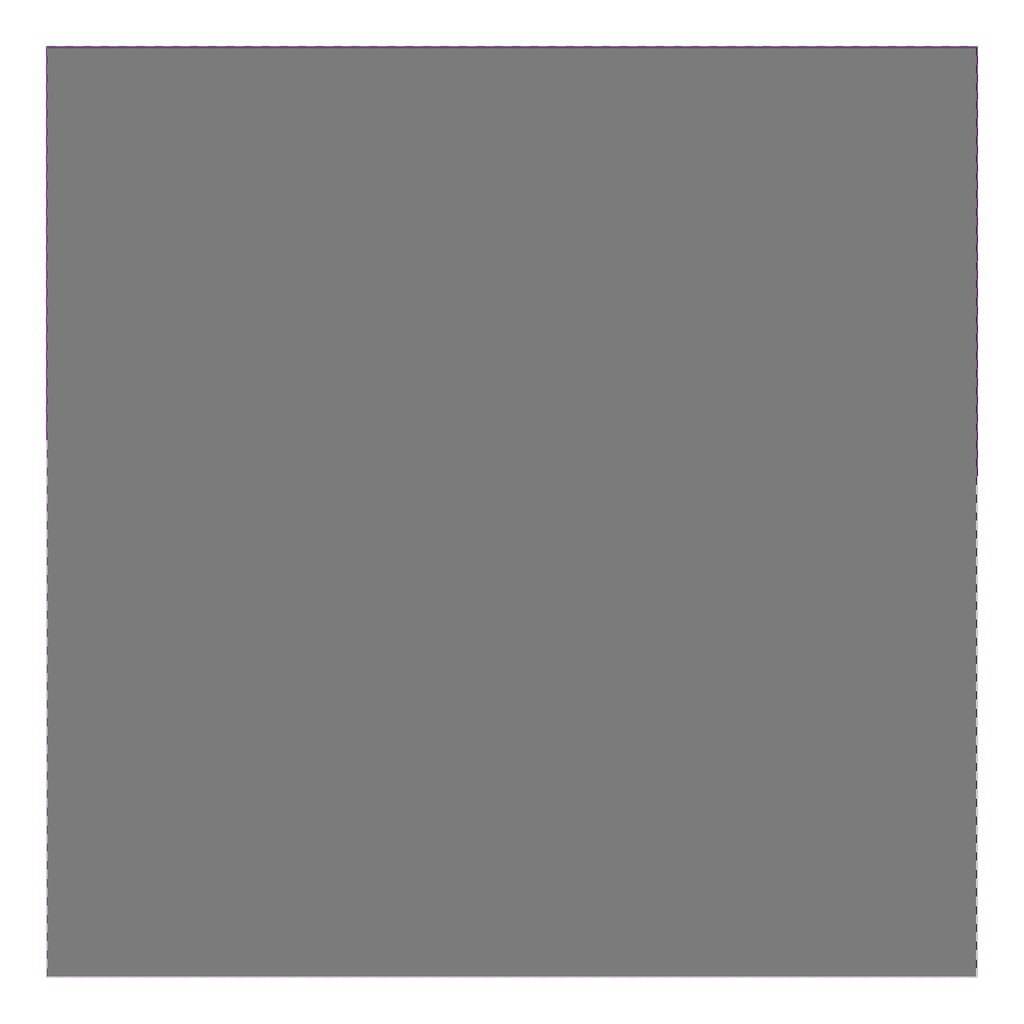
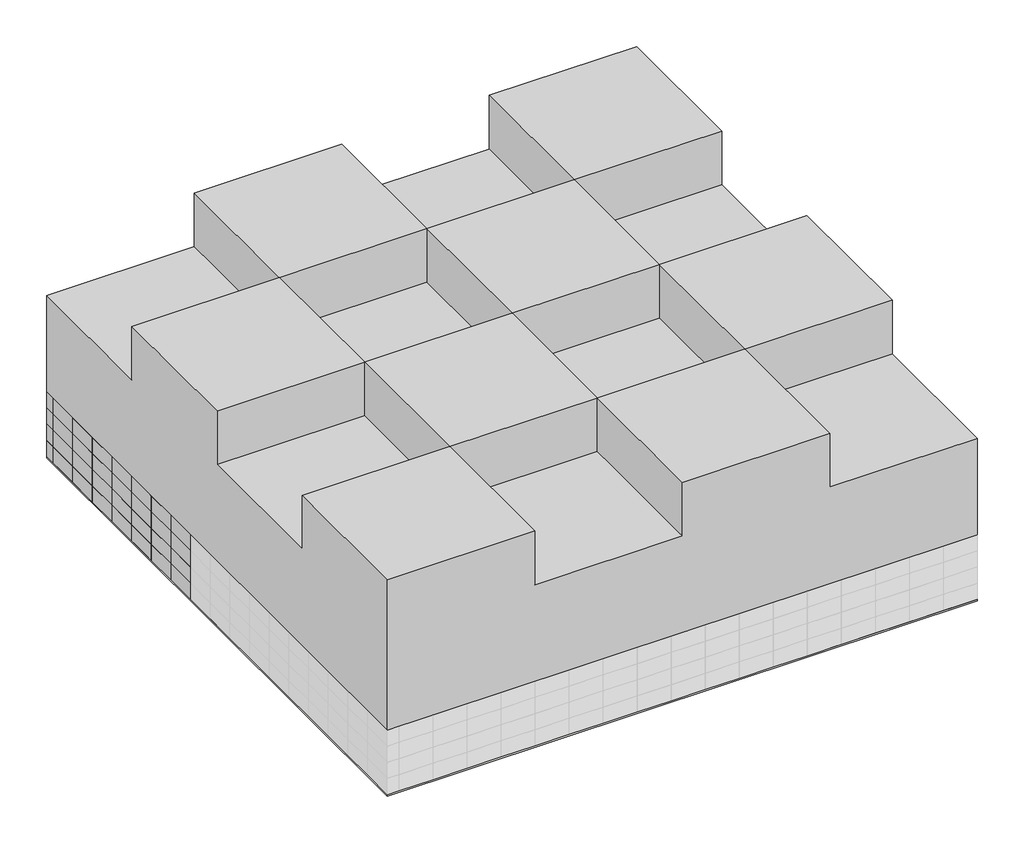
# One storey, part 2 of 2: 136 plates, 2 slabs, 1 proxy.
"""IFC4 building model written with IfcOpenShell, lengths in millimetres."""

from ifc_helpers import new_model, si_unit, frame, origin, place, context, project, spatial, polyline, outline, extrude, faceted_brep, transform, mapped, element, save
from components import plate_b491c4e8, plate_da1865bf

model = new_model("IFC4")

# Units and contexts
model_context = context("Model", 3, world=origin())
ifc_project = project(units=[si_unit("LENGTHUNIT", "METRE", prefix="MILLI")], contexts=[model_context])

# Site, building, storey
site = spatial("IfcSite", under=ifc_project)
building = spatial("IfcBuilding", under=site)
storey = spatial("IfcBuildingStorey", under=building, Name="标高 1", Elevation=0.0)

# Proxy
placement = place(None, origin())
element("IfcBuildingElementProxy", 1, Name="建筑形体 : 建筑形体", ObjectType="建筑形体 : 建筑形体", at=placement, inside=storey, context=model_context, shape_type="Brep", body=[
    faceted_brep([(30694.7947586, -27248.6313563, 0.0), (30694.7947586, 24751.3686437, 0.0), (30694.7947586, 24751.3686437, 20000.0), (30694.7947586, 11751.3686437, 20000.0), (30694.7947586, 11751.3686437, 15000.0), (30694.7947586, -1248.6313563, 15000.0), (30694.7947586, -1248.6313563, 20000.0), (30694.7947586, -14248.6313563, 20000.0), (30694.7947586, -14248.6313563, 15000.0), (30694.7947586, -27248.6313563, 15000.0), (-21305.2052414, 24751.3686437, 0.0), (-21305.2052414, 24751.3686437, 15000.0), (-8305.2052414, 24751.3686437, 15000.0), (-8305.2052414, 24751.3686437, 20000.0), (4694.7947586, 24751.3686437, 20000.0), (4694.7947586, 24751.3686437, 15000.0), (17694.7947586, 24751.3686437, 15000.0), (17694.7947586, 24751.3686437, 20000.0), (-21305.2052414, -27248.6313563, 0.0), (-21305.2052414, -27248.6313563, 20000.0), (-21305.2052414, -14248.6313563, 20000.0), (-21305.2052414, -14248.6313563, 15000.0), (-21305.2052414, -1248.6313563, 15000.0), (-21305.2052414, -1248.6313563, 20000.0), (-21305.2052414, 11751.3686437, 20000.0), (-21305.2052414, 11751.3686437, 15000.0), (17694.7947586, -27248.6313563, 15000.0), (17694.7947586, -27248.6313563, 20000.0), (4694.7947586, -27248.6313563, 20000.0), (4694.7947586, -27248.6313563, 15000.0), (-8305.2052414, -27248.6313563, 15000.0), (-8305.2052414, -27248.6313563, 20000.0), (17694.7947586, 11751.3686437, 20000.0), (-8305.2052414, -14248.6313563, 20000.0), (-8305.2052414, 11751.3686437, 20000.0), (-8305.2052414, -1248.6313563, 20000.0), (4694.7947586, 11751.3686437, 20000.0), (4694.7947586, -1248.6313563, 20000.0), (17694.7947586, -1248.6313563, 20000.0), (4694.7947586, -14248.6313563, 20000.0), (17694.7947586, -14248.6313563, 20000.0), (-8305.2052414, 11751.3686437, 15000.0), (4694.7947586, 11751.3686437, 15000.0), (17694.7947586, 11751.3686437, 15000.0), (4694.7947586, 11751.3686437, 15000.0), (-8305.2052414, 11751.3686437, 15000.0), (-8305.2052414, -1248.6313563, 15000.0), (4694.7947586, -1248.6313563, 15000.0), (17694.7947586, 11751.3686437, 15000.0), (17694.7947586, -1248.6313563, 15000.0), (-8305.2052414, -1248.6313563, 15000.0), (-8305.2052414, -14248.6313563, 15000.0), (17694.7947586, -1248.6313563, 15000.0), (4694.7947586, -1248.6313563, 15000.0), (4694.7947586, -14248.6313563, 15000.0), (17694.7947586, -14248.6313563, 15000.0), (4694.7947586, -14248.6313563, 15000.0), (-8305.2052414, -14248.6313563, 15000.0), (17694.7947586, -14248.6313563, 15000.0)], [[[0, 1, 2, 3, 4, 5, 6, 7, 8, 9]], [[2, 1, 10, 11, 12, 13, 14, 15, 16, 17]], [[10, 18, 19, 20, 21, 22, 23, 24, 25, 11]], [[19, 18, 0, 9, 26, 27, 28, 29, 30, 31]], [[2, 17, 32, 3]], [[20, 19, 31, 33]], [[34, 24, 23, 35]], [[13, 34, 36, 14]], [[32, 36, 37, 38]], [[37, 35, 33, 39]], [[6, 38, 40, 7]], [[40, 39, 28, 27]], [[1, 0, 18, 10]], [[34, 41, 25, 24]], [[41, 34, 13, 12]], [[25, 41, 12, 11]], [[36, 42, 15, 14]], [[42, 36, 32, 43]], [[43, 32, 17, 16]], [[15, 42, 43, 16]], [[44, 36, 34, 45]], [[45, 34, 35, 46]], [[46, 35, 37, 47]], [[36, 44, 47, 37]], [[44, 45, 46, 47]], [[32, 48, 4, 3]], [[48, 32, 38, 49]], [[49, 38, 6, 5]], [[4, 48, 49, 5]], [[50, 35, 23, 22]], [[33, 51, 21, 20]], [[35, 50, 51, 33]], [[50, 22, 21, 51]], [[52, 38, 37, 53]], [[53, 37, 39, 54]], [[54, 39, 40, 55]], [[38, 52, 55, 40]], [[52, 53, 54, 55]], [[56, 39, 33, 57]], [[57, 33, 31, 30]], [[39, 56, 29, 28]], [[56, 57, 30, 29]], [[40, 58, 8, 7]], [[58, 40, 27, 26]], [[8, 58, 26, 9]]]),
])

# Plates
plate_shape = plate_b491c4e8(model_context)
element("IfcPlate", 2, ObjectType="系统嵌板 : 玻璃", at=placement, inside=storey, context=model_context, shape_type="MappedRepresentation", body=[
    mapped(plate_shape, transform((30694.7947586, 23251.3686437, 0.0), x_axis=(0.0, -1.0, 0.0), y_axis=(1.0, 0.0, 0.0), z_axis=(0.0, 0.0, 1.0))),
])
element("IfcPlate", 3, ObjectType="系统嵌板 : 玻璃", at=placement, inside=storey, context=model_context, shape_type="MappedRepresentation", body=[
    mapped(plate_shape, transform((-19805.2052414, 24751.3686437, 0.0), x_axis=(1.0, 0.0, 0.0), y_axis=(0.0, 1.0, 0.0), z_axis=(0.0, 0.0, 1.0))),
])
element("IfcPlate", 4, ObjectType="系统嵌板 : 玻璃", at=placement, inside=storey, context=model_context, shape_type="MappedRepresentation", body=[
    mapped(plate_shape, transform((30694.7947586, 20251.3686437, 0.0), x_axis=(0.0, -1.0, 0.0), y_axis=(1.0, 0.0, 0.0), z_axis=(0.0, 0.0, 1.0))),
])
element("IfcPlate", 5, ObjectType="系统嵌板 : 玻璃", at=placement, inside=storey, context=model_context, shape_type="MappedRepresentation", body=[
    mapped(plate_shape, transform((30694.7947586, 17251.3686437, 0.0), x_axis=(0.0, -1.0, 0.0), y_axis=(1.0, 0.0, 0.0), z_axis=(0.0, 0.0, 1.0))),
])
element("IfcPlate", 6, ObjectType="系统嵌板 : 玻璃", at=placement, inside=storey, context=model_context, shape_type="MappedRepresentation", body=[
    mapped(plate_shape, transform((30694.7947586, 14251.3686437, 0.0), x_axis=(0.0, -1.0, 0.0), y_axis=(1.0, 0.0, 0.0), z_axis=(0.0, 0.0, 1.0))),
])
element("IfcPlate", 7, ObjectType="系统嵌板 : 玻璃", at=placement, inside=storey, context=model_context, shape_type="MappedRepresentation", body=[
    mapped(plate_shape, transform((30694.7947586, 11251.3686437, 0.0), x_axis=(0.0, -1.0, 0.0), y_axis=(1.0, 0.0, 0.0), z_axis=(0.0, 0.0, 1.0))),
])
element("IfcPlate", 8, ObjectType="系统嵌板 : 玻璃", at=placement, inside=storey, context=model_context, shape_type="MappedRepresentation", body=[
    mapped(plate_shape, transform((30694.7947586, 8251.3686437, 0.0), x_axis=(0.0, -1.0, 0.0), y_axis=(1.0, 0.0, 0.0), z_axis=(0.0, 0.0, 1.0))),
])
element("IfcPlate", 9, ObjectType="系统嵌板 : 玻璃", at=placement, inside=storey, context=model_context, shape_type="MappedRepresentation", body=[
    mapped(plate_shape, transform((30694.7947586, 5251.3686437, 0.0), x_axis=(0.0, -1.0, 0.0), y_axis=(1.0, 0.0, 0.0), z_axis=(0.0, 0.0, 1.0))),
])
element("IfcPlate", 10, ObjectType="系统嵌板 : 玻璃", at=placement, inside=storey, context=model_context, shape_type="MappedRepresentation", body=[
    mapped(plate_shape, transform((30694.7947586, 2251.3686437, 0.0), x_axis=(0.0, -1.0, 0.0), y_axis=(1.0, 0.0, 0.0), z_axis=(0.0, 0.0, 1.0))),
])
element("IfcPlate", 11, ObjectType="系统嵌板 : 玻璃", at=placement, inside=storey, context=model_context, shape_type="MappedRepresentation", body=[
    mapped(plate_shape, transform((30694.7947586, 23251.3686437, 1500.0), x_axis=(0.0, -1.0, 0.0), y_axis=(1.0, 0.0, 0.0), z_axis=(0.0, 0.0, 1.0))),
])
element("IfcPlate", 12, ObjectType="系统嵌板 : 玻璃", at=placement, inside=storey, context=model_context, shape_type="MappedRepresentation", body=[
    mapped(plate_shape, transform((30694.7947586, 20251.3686437, 1500.0), x_axis=(0.0, -1.0, 0.0), y_axis=(1.0, 0.0, 0.0), z_axis=(0.0, 0.0, 1.0))),
])
element("IfcPlate", 13, ObjectType="系统嵌板 : 玻璃", at=placement, inside=storey, context=model_context, shape_type="MappedRepresentation", body=[
    mapped(plate_shape, transform((30694.7947586, 17251.3686437, 1500.0), x_axis=(0.0, -1.0, 0.0), y_axis=(1.0, 0.0, 0.0), z_axis=(0.0, 0.0, 1.0))),
])
element("IfcPlate", 14, ObjectType="系统嵌板 : 玻璃", at=placement, inside=storey, context=model_context, shape_type="MappedRepresentation", body=[
    mapped(plate_shape, transform((30694.7947586, 14251.3686437, 1500.0), x_axis=(0.0, -1.0, 0.0), y_axis=(1.0, 0.0, 0.0), z_axis=(0.0, 0.0, 1.0))),
])
element("IfcPlate", 15, ObjectType="系统嵌板 : 玻璃", at=placement, inside=storey, context=model_context, shape_type="MappedRepresentation", body=[
    mapped(plate_shape, transform((30694.7947586, 11251.3686437, 1500.0), x_axis=(0.0, -1.0, 0.0), y_axis=(1.0, 0.0, 0.0), z_axis=(0.0, 0.0, 1.0))),
])
element("IfcPlate", 16, ObjectType="系统嵌板 : 玻璃", at=placement, inside=storey, context=model_context, shape_type="MappedRepresentation", body=[
    mapped(plate_shape, transform((30694.7947586, 8251.3686437, 1500.0), x_axis=(0.0, -1.0, 0.0), y_axis=(1.0, 0.0, 0.0), z_axis=(0.0, 0.0, 1.0))),
])
element("IfcPlate", 17, ObjectType="系统嵌板 : 玻璃", at=placement, inside=storey, context=model_context, shape_type="MappedRepresentation", body=[
    mapped(plate_shape, transform((30694.7947586, 5251.3686437, 1500.0), x_axis=(0.0, -1.0, 0.0), y_axis=(1.0, 0.0, 0.0), z_axis=(0.0, 0.0, 1.0))),
])
element("IfcPlate", 18, ObjectType="系统嵌板 : 玻璃", at=placement, inside=storey, context=model_context, shape_type="MappedRepresentation", body=[
    mapped(plate_shape, transform((30694.7947586, 2251.3686437, 1500.0), x_axis=(0.0, -1.0, 0.0), y_axis=(1.0, 0.0, 0.0), z_axis=(0.0, 0.0, 1.0))),
])
element("IfcPlate", 19, ObjectType="系统嵌板 : 玻璃", at=placement, inside=storey, context=model_context, shape_type="MappedRepresentation", body=[
    mapped(plate_shape, transform((30694.7947586, 23251.3686437, 3000.0), x_axis=(0.0, -1.0, 0.0), y_axis=(1.0, 0.0, 0.0), z_axis=(0.0, 0.0, 1.0))),
])
element("IfcPlate", 20, ObjectType="系统嵌板 : 玻璃", at=placement, inside=storey, context=model_context, shape_type="MappedRepresentation", body=[
    mapped(plate_shape, transform((30694.7947586, 20251.3686437, 3000.0), x_axis=(0.0, -1.0, 0.0), y_axis=(1.0, 0.0, 0.0), z_axis=(0.0, 0.0, 1.0))),
])
element("IfcPlate", 21, ObjectType="系统嵌板 : 玻璃", at=placement, inside=storey, context=model_context, shape_type="MappedRepresentation", body=[
    mapped(plate_shape, transform((30694.7947586, 17251.3686437, 3000.0), x_axis=(0.0, -1.0, 0.0), y_axis=(1.0, 0.0, 0.0), z_axis=(0.0, 0.0, 1.0))),
])
element("IfcPlate", 22, ObjectType="系统嵌板 : 玻璃", at=placement, inside=storey, context=model_context, shape_type="MappedRepresentation", body=[
    mapped(plate_shape, transform((30694.7947586, 14251.3686437, 3000.0), x_axis=(0.0, -1.0, 0.0), y_axis=(1.0, 0.0, 0.0), z_axis=(0.0, 0.0, 1.0))),
])
element("IfcPlate", 23, ObjectType="系统嵌板 : 玻璃", at=placement, inside=storey, context=model_context, shape_type="MappedRepresentation", body=[
    mapped(plate_shape, transform((30694.7947586, 11251.3686437, 3000.0), x_axis=(0.0, -1.0, 0.0), y_axis=(1.0, 0.0, 0.0), z_axis=(0.0, 0.0, 1.0))),
])
element("IfcPlate", 24, ObjectType="系统嵌板 : 玻璃", at=placement, inside=storey, context=model_context, shape_type="MappedRepresentation", body=[
    mapped(plate_shape, transform((30694.7947586, 8251.3686437, 3000.0), x_axis=(0.0, -1.0, 0.0), y_axis=(1.0, 0.0, 0.0), z_axis=(0.0, 0.0, 1.0))),
])
element("IfcPlate", 25, ObjectType="系统嵌板 : 玻璃", at=placement, inside=storey, context=model_context, shape_type="MappedRepresentation", body=[
    mapped(plate_shape, transform((30694.7947586, 5251.3686437, 3000.0), x_axis=(0.0, -1.0, 0.0), y_axis=(1.0, 0.0, 0.0), z_axis=(0.0, 0.0, 1.0))),
])
element("IfcPlate", 26, ObjectType="系统嵌板 : 玻璃", at=placement, inside=storey, context=model_context, shape_type="MappedRepresentation", body=[
    mapped(plate_shape, transform((30694.7947586, 2251.3686437, 3000.0), x_axis=(0.0, -1.0, 0.0), y_axis=(1.0, 0.0, 0.0), z_axis=(0.0, 0.0, 1.0))),
])
element("IfcPlate", 27, ObjectType="系统嵌板 : 玻璃", at=placement, inside=storey, context=model_context, shape_type="MappedRepresentation", body=[
    mapped(plate_shape, transform((30694.7947586, 23251.3686437, 4500.0), x_axis=(0.0, -1.0, 0.0), y_axis=(1.0, 0.0, 0.0), z_axis=(0.0, 0.0, 1.0))),
])
element("IfcPlate", 28, ObjectType="系统嵌板 : 玻璃", at=placement, inside=storey, context=model_context, shape_type="MappedRepresentation", body=[
    mapped(plate_shape, transform((30694.7947586, 20251.3686437, 4500.0), x_axis=(0.0, -1.0, 0.0), y_axis=(1.0, 0.0, 0.0), z_axis=(0.0, 0.0, 1.0))),
])
element("IfcPlate", 29, ObjectType="系统嵌板 : 玻璃", at=placement, inside=storey, context=model_context, shape_type="MappedRepresentation", body=[
    mapped(plate_shape, transform((30694.7947586, 17251.3686437, 4500.0), x_axis=(0.0, -1.0, 0.0), y_axis=(1.0, 0.0, 0.0), z_axis=(0.0, 0.0, 1.0))),
])
element("IfcPlate", 30, ObjectType="系统嵌板 : 玻璃", at=placement, inside=storey, context=model_context, shape_type="MappedRepresentation", body=[
    mapped(plate_shape, transform((30694.7947586, 14251.3686437, 4500.0), x_axis=(0.0, -1.0, 0.0), y_axis=(1.0, 0.0, 0.0), z_axis=(0.0, 0.0, 1.0))),
])
element("IfcPlate", 31, ObjectType="系统嵌板 : 玻璃", at=placement, inside=storey, context=model_context, shape_type="MappedRepresentation", body=[
    mapped(plate_shape, transform((30694.7947586, 11251.3686437, 4500.0), x_axis=(0.0, -1.0, 0.0), y_axis=(1.0, 0.0, 0.0), z_axis=(0.0, 0.0, 1.0))),
])
element("IfcPlate", 32, ObjectType="系统嵌板 : 玻璃", at=placement, inside=storey, context=model_context, shape_type="MappedRepresentation", body=[
    mapped(plate_shape, transform((30694.7947586, 8251.3686437, 4500.0), x_axis=(0.0, -1.0, 0.0), y_axis=(1.0, 0.0, 0.0), z_axis=(0.0, 0.0, 1.0))),
])
element("IfcPlate", 33, ObjectType="系统嵌板 : 玻璃", at=placement, inside=storey, context=model_context, shape_type="MappedRepresentation", body=[
    mapped(plate_shape, transform((30694.7947586, 5251.3686437, 4500.0), x_axis=(0.0, -1.0, 0.0), y_axis=(1.0, 0.0, 0.0), z_axis=(0.0, 0.0, 1.0))),
])
element("IfcPlate", 34, ObjectType="系统嵌板 : 玻璃", at=placement, inside=storey, context=model_context, shape_type="MappedRepresentation", body=[
    mapped(plate_shape, transform((30694.7947586, 2251.3686437, 4500.0), x_axis=(0.0, -1.0, 0.0), y_axis=(1.0, 0.0, 0.0), z_axis=(0.0, 0.0, 1.0))),
])
element("IfcPlate", 35, ObjectType="系统嵌板 : 玻璃", at=placement, inside=storey, context=model_context, shape_type="MappedRepresentation", body=[
    mapped(plate_shape, transform((-16805.2052414, 24751.3686437, 0.0), x_axis=(1.0, 0.0, 0.0), y_axis=(0.0, 1.0, 0.0), z_axis=(0.0, 0.0, 1.0))),
])
element("IfcPlate", 36, ObjectType="系统嵌板 : 玻璃", at=placement, inside=storey, context=model_context, shape_type="MappedRepresentation", body=[
    mapped(plate_shape, transform((-13805.2052414, 24751.3686437, 0.0), x_axis=(1.0, 0.0, 0.0), y_axis=(0.0, 1.0, 0.0), z_axis=(0.0, 0.0, 1.0))),
])
element("IfcPlate", 37, ObjectType="系统嵌板 : 玻璃", at=placement, inside=storey, context=model_context, shape_type="MappedRepresentation", body=[
    mapped(plate_shape, transform((-10805.2052414, 24751.3686437, 0.0), x_axis=(1.0, 0.0, 0.0), y_axis=(0.0, 1.0, 0.0), z_axis=(0.0, 0.0, 1.0))),
])
element("IfcPlate", 38, ObjectType="系统嵌板 : 玻璃", at=placement, inside=storey, context=model_context, shape_type="MappedRepresentation", body=[
    mapped(plate_shape, transform((-7805.2052414, 24751.3686437, 0.0), x_axis=(1.0, 0.0, 0.0), y_axis=(0.0, 1.0, 0.0), z_axis=(0.0, 0.0, 1.0))),
])
element("IfcPlate", 39, ObjectType="系统嵌板 : 玻璃", at=placement, inside=storey, context=model_context, shape_type="MappedRepresentation", body=[
    mapped(plate_shape, transform((-4805.2052414, 24751.3686437, 0.0), x_axis=(1.0, 0.0, 0.0), y_axis=(0.0, 1.0, 0.0), z_axis=(0.0, 0.0, 1.0))),
])
element("IfcPlate", 40, ObjectType="系统嵌板 : 玻璃", at=placement, inside=storey, context=model_context, shape_type="MappedRepresentation", body=[
    mapped(plate_shape, transform((-1805.2052414, 24751.3686437, 0.0), x_axis=(1.0, 0.0, 0.0), y_axis=(0.0, 1.0, 0.0), z_axis=(0.0, 0.0, 1.0))),
])
element("IfcPlate", 41, ObjectType="系统嵌板 : 玻璃", at=placement, inside=storey, context=model_context, shape_type="MappedRepresentation", body=[
    mapped(plate_shape, transform((1194.7947586, 24751.3686437, 0.0), x_axis=(1.0, 0.0, 0.0), y_axis=(0.0, 1.0, 0.0), z_axis=(0.0, 0.0, 1.0))),
])
element("IfcPlate", 42, ObjectType="系统嵌板 : 玻璃", at=placement, inside=storey, context=model_context, shape_type="MappedRepresentation", body=[
    mapped(plate_shape, transform((4194.7947586, 24751.3686437, 0.0), x_axis=(1.0, 0.0, 0.0), y_axis=(0.0, 1.0, 0.0), z_axis=(0.0, 0.0, 1.0))),
])
element("IfcPlate", 43, ObjectType="系统嵌板 : 玻璃", at=placement, inside=storey, context=model_context, shape_type="MappedRepresentation", body=[
    mapped(plate_shape, transform((7194.7947586, 24751.3686437, 0.0), x_axis=(1.0, 0.0, 0.0), y_axis=(0.0, 1.0, 0.0), z_axis=(0.0, 0.0, 1.0))),
])
element("IfcPlate", 44, ObjectType="系统嵌板 : 玻璃", at=placement, inside=storey, context=model_context, shape_type="MappedRepresentation", body=[
    mapped(plate_shape, transform((10194.7947586, 24751.3686437, 0.0), x_axis=(1.0, 0.0, 0.0), y_axis=(0.0, 1.0, 0.0), z_axis=(0.0, 0.0, 1.0))),
])
element("IfcPlate", 45, ObjectType="系统嵌板 : 玻璃", at=placement, inside=storey, context=model_context, shape_type="MappedRepresentation", body=[
    mapped(plate_shape, transform((13194.7947586, 24751.3686437, 0.0), x_axis=(1.0, 0.0, 0.0), y_axis=(0.0, 1.0, 0.0), z_axis=(0.0, 0.0, 1.0))),
])
element("IfcPlate", 46, ObjectType="系统嵌板 : 玻璃", at=placement, inside=storey, context=model_context, shape_type="MappedRepresentation", body=[
    mapped(plate_shape, transform((16194.7947586, 24751.3686437, 0.0), x_axis=(1.0, 0.0, 0.0), y_axis=(0.0, 1.0, 0.0), z_axis=(0.0, 0.0, 1.0))),
])
element("IfcPlate", 47, ObjectType="系统嵌板 : 玻璃", at=placement, inside=storey, context=model_context, shape_type="MappedRepresentation", body=[
    mapped(plate_shape, transform((19194.7947586, 24751.3686437, 0.0), x_axis=(1.0, 0.0, 0.0), y_axis=(0.0, 1.0, 0.0), z_axis=(0.0, 0.0, 1.0))),
])
element("IfcPlate", 48, ObjectType="系统嵌板 : 玻璃", at=placement, inside=storey, context=model_context, shape_type="MappedRepresentation", body=[
    mapped(plate_shape, transform((22194.7947586, 24751.3686437, 0.0), x_axis=(1.0, 0.0, 0.0), y_axis=(0.0, 1.0, 0.0), z_axis=(0.0, 0.0, 1.0))),
])
element("IfcPlate", 49, ObjectType="系统嵌板 : 玻璃", at=placement, inside=storey, context=model_context, shape_type="MappedRepresentation", body=[
    mapped(plate_shape, transform((25194.7947586, 24751.3686437, 0.0), x_axis=(1.0, 0.0, 0.0), y_axis=(0.0, 1.0, 0.0), z_axis=(0.0, 0.0, 1.0))),
])
element("IfcPlate", 50, ObjectType="系统嵌板 : 玻璃", at=placement, inside=storey, context=model_context, shape_type="MappedRepresentation", body=[
    mapped(plate_shape, transform((28194.7947586, 24751.3686437, 0.0), x_axis=(1.0, 0.0, 0.0), y_axis=(0.0, 1.0, 0.0), z_axis=(0.0, 0.0, 1.0))),
])
element("IfcPlate", 51, ObjectType="系统嵌板 : 玻璃", at=placement, inside=storey, context=model_context, shape_type="MappedRepresentation", body=[
    mapped(plate_shape, transform((-19805.2052414, 24751.3686437, 1500.0), x_axis=(1.0, 0.0, 0.0), y_axis=(0.0, 1.0, 0.0), z_axis=(0.0, 0.0, 1.0))),
])
element("IfcPlate", 52, ObjectType="系统嵌板 : 玻璃", at=placement, inside=storey, context=model_context, shape_type="MappedRepresentation", body=[
    mapped(plate_shape, transform((-16805.2052414, 24751.3686437, 1500.0), x_axis=(1.0, 0.0, 0.0), y_axis=(0.0, 1.0, 0.0), z_axis=(0.0, 0.0, 1.0))),
])
element("IfcPlate", 53, ObjectType="系统嵌板 : 玻璃", at=placement, inside=storey, context=model_context, shape_type="MappedRepresentation", body=[
    mapped(plate_shape, transform((-13805.2052414, 24751.3686437, 1500.0), x_axis=(1.0, 0.0, 0.0), y_axis=(0.0, 1.0, 0.0), z_axis=(0.0, 0.0, 1.0))),
])
element("IfcPlate", 54, ObjectType="系统嵌板 : 玻璃", at=placement, inside=storey, context=model_context, shape_type="MappedRepresentation", body=[
    mapped(plate_shape, transform((-10805.2052414, 24751.3686437, 1500.0), x_axis=(1.0, 0.0, 0.0), y_axis=(0.0, 1.0, 0.0), z_axis=(0.0, 0.0, 1.0))),
])
element("IfcPlate", 55, ObjectType="系统嵌板 : 玻璃", at=placement, inside=storey, context=model_context, shape_type="MappedRepresentation", body=[
    mapped(plate_shape, transform((-7805.2052414, 24751.3686437, 1500.0), x_axis=(1.0, 0.0, 0.0), y_axis=(0.0, 1.0, 0.0), z_axis=(0.0, 0.0, 1.0))),
])
element("IfcPlate", 56, ObjectType="系统嵌板 : 玻璃", at=placement, inside=storey, context=model_context, shape_type="MappedRepresentation", body=[
    mapped(plate_shape, transform((-4805.2052414, 24751.3686437, 1500.0), x_axis=(1.0, 0.0, 0.0), y_axis=(0.0, 1.0, 0.0), z_axis=(0.0, 0.0, 1.0))),
])
element("IfcPlate", 57, ObjectType="系统嵌板 : 玻璃", at=placement, inside=storey, context=model_context, shape_type="MappedRepresentation", body=[
    mapped(plate_shape, transform((-1805.2052414, 24751.3686437, 1500.0), x_axis=(1.0, 0.0, 0.0), y_axis=(0.0, 1.0, 0.0), z_axis=(0.0, 0.0, 1.0))),
])
element("IfcPlate", 58, ObjectType="系统嵌板 : 玻璃", at=placement, inside=storey, context=model_context, shape_type="MappedRepresentation", body=[
    mapped(plate_shape, transform((1194.7947586, 24751.3686437, 1500.0), x_axis=(1.0, 0.0, 0.0), y_axis=(0.0, 1.0, 0.0), z_axis=(0.0, 0.0, 1.0))),
])
element("IfcPlate", 59, ObjectType="系统嵌板 : 玻璃", at=placement, inside=storey, context=model_context, shape_type="MappedRepresentation", body=[
    mapped(plate_shape, transform((4194.7947586, 24751.3686437, 1500.0), x_axis=(1.0, 0.0, 0.0), y_axis=(0.0, 1.0, 0.0), z_axis=(0.0, 0.0, 1.0))),
])
element("IfcPlate", 60, ObjectType="系统嵌板 : 玻璃", at=placement, inside=storey, context=model_context, shape_type="MappedRepresentation", body=[
    mapped(plate_shape, transform((7194.7947586, 24751.3686437, 1500.0), x_axis=(1.0, 0.0, 0.0), y_axis=(0.0, 1.0, 0.0), z_axis=(0.0, 0.0, 1.0))),
])
element("IfcPlate", 61, ObjectType="系统嵌板 : 玻璃", at=placement, inside=storey, context=model_context, shape_type="MappedRepresentation", body=[
    mapped(plate_shape, transform((10194.7947586, 24751.3686437, 1500.0), x_axis=(1.0, 0.0, 0.0), y_axis=(0.0, 1.0, 0.0), z_axis=(0.0, 0.0, 1.0))),
])
element("IfcPlate", 62, ObjectType="系统嵌板 : 玻璃", at=placement, inside=storey, context=model_context, shape_type="MappedRepresentation", body=[
    mapped(plate_shape, transform((13194.7947586, 24751.3686437, 1500.0), x_axis=(1.0, 0.0, 0.0), y_axis=(0.0, 1.0, 0.0), z_axis=(0.0, 0.0, 1.0))),
])
element("IfcPlate", 63, ObjectType="系统嵌板 : 玻璃", at=placement, inside=storey, context=model_context, shape_type="MappedRepresentation", body=[
    mapped(plate_shape, transform((16194.7947586, 24751.3686437, 1500.0), x_axis=(1.0, 0.0, 0.0), y_axis=(0.0, 1.0, 0.0), z_axis=(0.0, 0.0, 1.0))),
])
element("IfcPlate", 64, ObjectType="系统嵌板 : 玻璃", at=placement, inside=storey, context=model_context, shape_type="MappedRepresentation", body=[
    mapped(plate_shape, transform((19194.7947586, 24751.3686437, 1500.0), x_axis=(1.0, 0.0, 0.0), y_axis=(0.0, 1.0, 0.0), z_axis=(0.0, 0.0, 1.0))),
])
element("IfcPlate", 65, ObjectType="系统嵌板 : 玻璃", at=placement, inside=storey, context=model_context, shape_type="MappedRepresentation", body=[
    mapped(plate_shape, transform((22194.7947586, 24751.3686437, 1500.0), x_axis=(1.0, 0.0, 0.0), y_axis=(0.0, 1.0, 0.0), z_axis=(0.0, 0.0, 1.0))),
])
element("IfcPlate", 66, ObjectType="系统嵌板 : 玻璃", at=placement, inside=storey, context=model_context, shape_type="MappedRepresentation", body=[
    mapped(plate_shape, transform((25194.7947586, 24751.3686437, 1500.0), x_axis=(1.0, 0.0, 0.0), y_axis=(0.0, 1.0, 0.0), z_axis=(0.0, 0.0, 1.0))),
])
element("IfcPlate", 67, ObjectType="系统嵌板 : 玻璃", at=placement, inside=storey, context=model_context, shape_type="MappedRepresentation", body=[
    mapped(plate_shape, transform((28194.7947586, 24751.3686437, 1500.0), x_axis=(1.0, 0.0, 0.0), y_axis=(0.0, 1.0, 0.0), z_axis=(0.0, 0.0, 1.0))),
])
element("IfcPlate", 68, ObjectType="系统嵌板 : 玻璃", at=placement, inside=storey, context=model_context, shape_type="MappedRepresentation", body=[
    mapped(plate_shape, transform((-19805.2052414, 24751.3686437, 3000.0), x_axis=(1.0, 0.0, 0.0), y_axis=(0.0, 1.0, 0.0), z_axis=(0.0, 0.0, 1.0))),
])
element("IfcPlate", 69, ObjectType="系统嵌板 : 玻璃", at=placement, inside=storey, context=model_context, shape_type="MappedRepresentation", body=[
    mapped(plate_shape, transform((-16805.2052414, 24751.3686437, 3000.0), x_axis=(1.0, 0.0, 0.0), y_axis=(0.0, 1.0, 0.0), z_axis=(0.0, 0.0, 1.0))),
])
element("IfcPlate", 70, ObjectType="系统嵌板 : 玻璃", at=placement, inside=storey, context=model_context, shape_type="MappedRepresentation", body=[
    mapped(plate_shape, transform((-13805.2052414, 24751.3686437, 3000.0), x_axis=(1.0, 0.0, 0.0), y_axis=(0.0, 1.0, 0.0), z_axis=(0.0, 0.0, 1.0))),
])
element("IfcPlate", 71, ObjectType="系统嵌板 : 玻璃", at=placement, inside=storey, context=model_context, shape_type="MappedRepresentation", body=[
    mapped(plate_shape, transform((-10805.2052414, 24751.3686437, 3000.0), x_axis=(1.0, 0.0, 0.0), y_axis=(0.0, 1.0, 0.0), z_axis=(0.0, 0.0, 1.0))),
])
element("IfcPlate", 72, ObjectType="系统嵌板 : 玻璃", at=placement, inside=storey, context=model_context, shape_type="MappedRepresentation", body=[
    mapped(plate_shape, transform((-7805.2052414, 24751.3686437, 3000.0), x_axis=(1.0, 0.0, 0.0), y_axis=(0.0, 1.0, 0.0), z_axis=(0.0, 0.0, 1.0))),
])
element("IfcPlate", 73, ObjectType="系统嵌板 : 玻璃", at=placement, inside=storey, context=model_context, shape_type="MappedRepresentation", body=[
    mapped(plate_shape, transform((-4805.2052414, 24751.3686437, 3000.0), x_axis=(1.0, 0.0, 0.0), y_axis=(0.0, 1.0, 0.0), z_axis=(0.0, 0.0, 1.0))),
])
element("IfcPlate", 74, ObjectType="系统嵌板 : 玻璃", at=placement, inside=storey, context=model_context, shape_type="MappedRepresentation", body=[
    mapped(plate_shape, transform((-1805.2052414, 24751.3686437, 3000.0), x_axis=(1.0, 0.0, 0.0), y_axis=(0.0, 1.0, 0.0), z_axis=(0.0, 0.0, 1.0))),
])
element("IfcPlate", 75, ObjectType="系统嵌板 : 玻璃", at=placement, inside=storey, context=model_context, shape_type="MappedRepresentation", body=[
    mapped(plate_shape, transform((1194.7947586, 24751.3686437, 3000.0), x_axis=(1.0, 0.0, 0.0), y_axis=(0.0, 1.0, 0.0), z_axis=(0.0, 0.0, 1.0))),
])
element("IfcPlate", 76, ObjectType="系统嵌板 : 玻璃", at=placement, inside=storey, context=model_context, shape_type="MappedRepresentation", body=[
    mapped(plate_shape, transform((4194.7947586, 24751.3686437, 3000.0), x_axis=(1.0, 0.0, 0.0), y_axis=(0.0, 1.0, 0.0), z_axis=(0.0, 0.0, 1.0))),
])
element("IfcPlate", 77, ObjectType="系统嵌板 : 玻璃", at=placement, inside=storey, context=model_context, shape_type="MappedRepresentation", body=[
    mapped(plate_shape, transform((7194.7947586, 24751.3686437, 3000.0), x_axis=(1.0, 0.0, 0.0), y_axis=(0.0, 1.0, 0.0), z_axis=(0.0, 0.0, 1.0))),
])
element("IfcPlate", 78, ObjectType="系统嵌板 : 玻璃", at=placement, inside=storey, context=model_context, shape_type="MappedRepresentation", body=[
    mapped(plate_shape, transform((10194.7947586, 24751.3686437, 3000.0), x_axis=(1.0, 0.0, 0.0), y_axis=(0.0, 1.0, 0.0), z_axis=(0.0, 0.0, 1.0))),
])
element("IfcPlate", 79, ObjectType="系统嵌板 : 玻璃", at=placement, inside=storey, context=model_context, shape_type="MappedRepresentation", body=[
    mapped(plate_shape, transform((13194.7947586, 24751.3686437, 3000.0), x_axis=(1.0, 0.0, 0.0), y_axis=(0.0, 1.0, 0.0), z_axis=(0.0, 0.0, 1.0))),
])
element("IfcPlate", 80, ObjectType="系统嵌板 : 玻璃", at=placement, inside=storey, context=model_context, shape_type="MappedRepresentation", body=[
    mapped(plate_shape, transform((16194.7947586, 24751.3686437, 3000.0), x_axis=(1.0, 0.0, 0.0), y_axis=(0.0, 1.0, 0.0), z_axis=(0.0, 0.0, 1.0))),
])
element("IfcPlate", 81, ObjectType="系统嵌板 : 玻璃", at=placement, inside=storey, context=model_context, shape_type="MappedRepresentation", body=[
    mapped(plate_shape, transform((19194.7947586, 24751.3686437, 3000.0), x_axis=(1.0, 0.0, 0.0), y_axis=(0.0, 1.0, 0.0), z_axis=(0.0, 0.0, 1.0))),
])
element("IfcPlate", 82, ObjectType="系统嵌板 : 玻璃", at=placement, inside=storey, context=model_context, shape_type="MappedRepresentation", body=[
    mapped(plate_shape, transform((22194.7947586, 24751.3686437, 3000.0), x_axis=(1.0, 0.0, 0.0), y_axis=(0.0, 1.0, 0.0), z_axis=(0.0, 0.0, 1.0))),
])
element("IfcPlate", 83, ObjectType="系统嵌板 : 玻璃", at=placement, inside=storey, context=model_context, shape_type="MappedRepresentation", body=[
    mapped(plate_shape, transform((25194.7947586, 24751.3686437, 3000.0), x_axis=(1.0, 0.0, 0.0), y_axis=(0.0, 1.0, 0.0), z_axis=(0.0, 0.0, 1.0))),
])
element("IfcPlate", 84, ObjectType="系统嵌板 : 玻璃", at=placement, inside=storey, context=model_context, shape_type="MappedRepresentation", body=[
    mapped(plate_shape, transform((28194.7947586, 24751.3686437, 3000.0), x_axis=(1.0, 0.0, 0.0), y_axis=(0.0, 1.0, 0.0), z_axis=(0.0, 0.0, 1.0))),
])
element("IfcPlate", 85, ObjectType="系统嵌板 : 玻璃", at=placement, inside=storey, context=model_context, shape_type="MappedRepresentation", body=[
    mapped(plate_shape, transform((-19805.2052414, 24751.3686437, 4500.0), x_axis=(1.0, 0.0, 0.0), y_axis=(0.0, 1.0, 0.0), z_axis=(0.0, 0.0, 1.0))),
])
element("IfcPlate", 86, ObjectType="系统嵌板 : 玻璃", at=placement, inside=storey, context=model_context, shape_type="MappedRepresentation", body=[
    mapped(plate_shape, transform((-16805.2052414, 24751.3686437, 4500.0), x_axis=(1.0, 0.0, 0.0), y_axis=(0.0, 1.0, 0.0), z_axis=(0.0, 0.0, 1.0))),
])
element("IfcPlate", 87, ObjectType="系统嵌板 : 玻璃", at=placement, inside=storey, context=model_context, shape_type="MappedRepresentation", body=[
    mapped(plate_shape, transform((-13805.2052414, 24751.3686437, 4500.0), x_axis=(1.0, 0.0, 0.0), y_axis=(0.0, 1.0, 0.0), z_axis=(0.0, 0.0, 1.0))),
])
element("IfcPlate", 88, ObjectType="系统嵌板 : 玻璃", at=placement, inside=storey, context=model_context, shape_type="MappedRepresentation", body=[
    mapped(plate_shape, transform((-10805.2052414, 24751.3686437, 4500.0), x_axis=(1.0, 0.0, 0.0), y_axis=(0.0, 1.0, 0.0), z_axis=(0.0, 0.0, 1.0))),
])
element("IfcPlate", 89, ObjectType="系统嵌板 : 玻璃", at=placement, inside=storey, context=model_context, shape_type="MappedRepresentation", body=[
    mapped(plate_shape, transform((-7805.2052414, 24751.3686437, 4500.0), x_axis=(1.0, 0.0, 0.0), y_axis=(0.0, 1.0, 0.0), z_axis=(0.0, 0.0, 1.0))),
])
element("IfcPlate", 90, ObjectType="系统嵌板 : 玻璃", at=placement, inside=storey, context=model_context, shape_type="MappedRepresentation", body=[
    mapped(plate_shape, transform((-4805.2052414, 24751.3686437, 4500.0), x_axis=(1.0, 0.0, 0.0), y_axis=(0.0, 1.0, 0.0), z_axis=(0.0, 0.0, 1.0))),
])
element("IfcPlate", 91, ObjectType="系统嵌板 : 玻璃", at=placement, inside=storey, context=model_context, shape_type="MappedRepresentation", body=[
    mapped(plate_shape, transform((-1805.2052414, 24751.3686437, 4500.0), x_axis=(1.0, 0.0, 0.0), y_axis=(0.0, 1.0, 0.0), z_axis=(0.0, 0.0, 1.0))),
])
element("IfcPlate", 92, ObjectType="系统嵌板 : 玻璃", at=placement, inside=storey, context=model_context, shape_type="MappedRepresentation", body=[
    mapped(plate_shape, transform((1194.7947586, 24751.3686437, 4500.0), x_axis=(1.0, 0.0, 0.0), y_axis=(0.0, 1.0, 0.0), z_axis=(0.0, 0.0, 1.0))),
])
element("IfcPlate", 93, ObjectType="系统嵌板 : 玻璃", at=placement, inside=storey, context=model_context, shape_type="MappedRepresentation", body=[
    mapped(plate_shape, transform((4194.7947586, 24751.3686437, 4500.0), x_axis=(1.0, 0.0, 0.0), y_axis=(0.0, 1.0, 0.0), z_axis=(0.0, 0.0, 1.0))),
])
element("IfcPlate", 94, ObjectType="系统嵌板 : 玻璃", at=placement, inside=storey, context=model_context, shape_type="MappedRepresentation", body=[
    mapped(plate_shape, transform((7194.7947586, 24751.3686437, 4500.0), x_axis=(1.0, 0.0, 0.0), y_axis=(0.0, 1.0, 0.0), z_axis=(0.0, 0.0, 1.0))),
])
element("IfcPlate", 95, ObjectType="系统嵌板 : 玻璃", at=placement, inside=storey, context=model_context, shape_type="MappedRepresentation", body=[
    mapped(plate_shape, transform((10194.7947586, 24751.3686437, 4500.0), x_axis=(1.0, 0.0, 0.0), y_axis=(0.0, 1.0, 0.0), z_axis=(0.0, 0.0, 1.0))),
])
element("IfcPlate", 96, ObjectType="系统嵌板 : 玻璃", at=placement, inside=storey, context=model_context, shape_type="MappedRepresentation", body=[
    mapped(plate_shape, transform((13194.7947586, 24751.3686437, 4500.0), x_axis=(1.0, 0.0, 0.0), y_axis=(0.0, 1.0, 0.0), z_axis=(0.0, 0.0, 1.0))),
])
element("IfcPlate", 97, ObjectType="系统嵌板 : 玻璃", at=placement, inside=storey, context=model_context, shape_type="MappedRepresentation", body=[
    mapped(plate_shape, transform((16194.7947586, 24751.3686437, 4500.0), x_axis=(1.0, 0.0, 0.0), y_axis=(0.0, 1.0, 0.0), z_axis=(0.0, 0.0, 1.0))),
])
element("IfcPlate", 98, ObjectType="系统嵌板 : 玻璃", at=placement, inside=storey, context=model_context, shape_type="MappedRepresentation", body=[
    mapped(plate_shape, transform((19194.7947586, 24751.3686437, 4500.0), x_axis=(1.0, 0.0, 0.0), y_axis=(0.0, 1.0, 0.0), z_axis=(0.0, 0.0, 1.0))),
])
element("IfcPlate", 99, ObjectType="系统嵌板 : 玻璃", at=placement, inside=storey, context=model_context, shape_type="MappedRepresentation", body=[
    mapped(plate_shape, transform((22194.7947586, 24751.3686437, 4500.0), x_axis=(1.0, 0.0, 0.0), y_axis=(0.0, 1.0, 0.0), z_axis=(0.0, 0.0, 1.0))),
])
element("IfcPlate", 100, ObjectType="系统嵌板 : 玻璃", at=placement, inside=storey, context=model_context, shape_type="MappedRepresentation", body=[
    mapped(plate_shape, transform((25194.7947586, 24751.3686437, 4500.0), x_axis=(1.0, 0.0, 0.0), y_axis=(0.0, 1.0, 0.0), z_axis=(0.0, 0.0, 1.0))),
])
element("IfcPlate", 101, ObjectType="系统嵌板 : 玻璃", at=placement, inside=storey, context=model_context, shape_type="MappedRepresentation", body=[
    mapped(plate_shape, transform((28194.7947586, 24751.3686437, 4500.0), x_axis=(1.0, 0.0, 0.0), y_axis=(0.0, 1.0, 0.0), z_axis=(0.0, 0.0, 1.0))),
])
element("IfcPlate", 102, ObjectType="系统嵌板 : 玻璃", at=placement, inside=storey, context=model_context, shape_type="MappedRepresentation", body=[
    mapped(plate_shape, transform((-21305.2052414, 4251.3686437, 0.0), x_axis=(0.0, 1.0, 0.0), y_axis=(-1.0, 0.0, 0.0), z_axis=(0.0, 0.0, 1.0))),
])
element("IfcPlate", 103, ObjectType="系统嵌板 : 玻璃", at=placement, inside=storey, context=model_context, shape_type="MappedRepresentation", body=[
    mapped(plate_shape, transform((-21305.2052414, 7251.3686437, 0.0), x_axis=(0.0, 1.0, 0.0), y_axis=(-1.0, 0.0, 0.0), z_axis=(0.0, 0.0, 1.0))),
])
element("IfcPlate", 104, ObjectType="系统嵌板 : 玻璃", at=placement, inside=storey, context=model_context, shape_type="MappedRepresentation", body=[
    mapped(plate_shape, transform((-21305.2052414, 10251.3686437, 0.0), x_axis=(0.0, 1.0, 0.0), y_axis=(-1.0, 0.0, 0.0), z_axis=(0.0, 0.0, 1.0))),
])
element("IfcPlate", 105, ObjectType="系统嵌板 : 玻璃", at=placement, inside=storey, context=model_context, shape_type="MappedRepresentation", body=[
    mapped(plate_shape, transform((-21305.2052414, 13251.3686437, 0.0), x_axis=(0.0, 1.0, 0.0), y_axis=(-1.0, 0.0, 0.0), z_axis=(0.0, 0.0, 1.0))),
])
element("IfcPlate", 106, ObjectType="系统嵌板 : 玻璃", at=placement, inside=storey, context=model_context, shape_type="MappedRepresentation", body=[
    mapped(plate_shape, transform((-21305.2052414, 16251.3686437, 0.0), x_axis=(0.0, 1.0, 0.0), y_axis=(-1.0, 0.0, 0.0), z_axis=(0.0, 0.0, 1.0))),
])
element("IfcPlate", 107, ObjectType="系统嵌板 : 玻璃", at=placement, inside=storey, context=model_context, shape_type="MappedRepresentation", body=[
    mapped(plate_shape, transform((-21305.2052414, 19251.3686437, 0.0), x_axis=(0.0, 1.0, 0.0), y_axis=(-1.0, 0.0, 0.0), z_axis=(0.0, 0.0, 1.0))),
])
element("IfcPlate", 108, ObjectType="系统嵌板 : 玻璃", at=placement, inside=storey, context=model_context, shape_type="MappedRepresentation", body=[
    mapped(plate_shape, transform((-21305.2052414, 22251.3686437, 0.0), x_axis=(0.0, 1.0, 0.0), y_axis=(-1.0, 0.0, 0.0), z_axis=(0.0, 0.0, 1.0))),
])
element("IfcPlate", 109, ObjectType="系统嵌板 : 玻璃", at=placement, inside=storey, context=model_context, shape_type="MappedRepresentation", body=[
    mapped(plate_shape, transform((-21305.2052414, 4251.3686437, 1500.0), x_axis=(0.0, 1.0, 0.0), y_axis=(-1.0, 0.0, 0.0), z_axis=(0.0, 0.0, 1.0))),
])
element("IfcPlate", 110, ObjectType="系统嵌板 : 玻璃", at=placement, inside=storey, context=model_context, shape_type="MappedRepresentation", body=[
    mapped(plate_shape, transform((-21305.2052414, 7251.3686437, 1500.0), x_axis=(0.0, 1.0, 0.0), y_axis=(-1.0, 0.0, 0.0), z_axis=(0.0, 0.0, 1.0))),
])
element("IfcPlate", 111, ObjectType="系统嵌板 : 玻璃", at=placement, inside=storey, context=model_context, shape_type="MappedRepresentation", body=[
    mapped(plate_shape, transform((-21305.2052414, 10251.3686437, 1500.0), x_axis=(0.0, 1.0, 0.0), y_axis=(-1.0, 0.0, 0.0), z_axis=(0.0, 0.0, 1.0))),
])
element("IfcPlate", 112, ObjectType="系统嵌板 : 玻璃", at=placement, inside=storey, context=model_context, shape_type="MappedRepresentation", body=[
    mapped(plate_shape, transform((-21305.2052414, 13251.3686437, 1500.0), x_axis=(0.0, 1.0, 0.0), y_axis=(-1.0, 0.0, 0.0), z_axis=(0.0, 0.0, 1.0))),
])
element("IfcPlate", 113, ObjectType="系统嵌板 : 玻璃", at=placement, inside=storey, context=model_context, shape_type="MappedRepresentation", body=[
    mapped(plate_shape, transform((-21305.2052414, 16251.3686437, 1500.0), x_axis=(0.0, 1.0, 0.0), y_axis=(-1.0, 0.0, 0.0), z_axis=(0.0, 0.0, 1.0))),
])
element("IfcPlate", 114, ObjectType="系统嵌板 : 玻璃", at=placement, inside=storey, context=model_context, shape_type="MappedRepresentation", body=[
    mapped(plate_shape, transform((-21305.2052414, 19251.3686437, 1500.0), x_axis=(0.0, 1.0, 0.0), y_axis=(-1.0, 0.0, 0.0), z_axis=(0.0, 0.0, 1.0))),
])
element("IfcPlate", 115, ObjectType="系统嵌板 : 玻璃", at=placement, inside=storey, context=model_context, shape_type="MappedRepresentation", body=[
    mapped(plate_shape, transform((-21305.2052414, 22251.3686437, 1500.0), x_axis=(0.0, 1.0, 0.0), y_axis=(-1.0, 0.0, 0.0), z_axis=(0.0, 0.0, 1.0))),
])
element("IfcPlate", 116, ObjectType="系统嵌板 : 玻璃", at=placement, inside=storey, context=model_context, shape_type="MappedRepresentation", body=[
    mapped(plate_shape, transform((-21305.2052414, 4251.3686437, 3000.0), x_axis=(0.0, 1.0, 0.0), y_axis=(-1.0, 0.0, 0.0), z_axis=(0.0, 0.0, 1.0))),
])
element("IfcPlate", 117, ObjectType="系统嵌板 : 玻璃", at=placement, inside=storey, context=model_context, shape_type="MappedRepresentation", body=[
    mapped(plate_shape, transform((-21305.2052414, 7251.3686437, 3000.0), x_axis=(0.0, 1.0, 0.0), y_axis=(-1.0, 0.0, 0.0), z_axis=(0.0, 0.0, 1.0))),
])
element("IfcPlate", 118, ObjectType="系统嵌板 : 玻璃", at=placement, inside=storey, context=model_context, shape_type="MappedRepresentation", body=[
    mapped(plate_shape, transform((-21305.2052414, 10251.3686437, 3000.0), x_axis=(0.0, 1.0, 0.0), y_axis=(-1.0, 0.0, 0.0), z_axis=(0.0, 0.0, 1.0))),
])
element("IfcPlate", 119, ObjectType="系统嵌板 : 玻璃", at=placement, inside=storey, context=model_context, shape_type="MappedRepresentation", body=[
    mapped(plate_shape, transform((-21305.2052414, 13251.3686437, 3000.0), x_axis=(0.0, 1.0, 0.0), y_axis=(-1.0, 0.0, 0.0), z_axis=(0.0, 0.0, 1.0))),
])
element("IfcPlate", 120, ObjectType="系统嵌板 : 玻璃", at=placement, inside=storey, context=model_context, shape_type="MappedRepresentation", body=[
    mapped(plate_shape, transform((-21305.2052414, 16251.3686437, 3000.0), x_axis=(0.0, 1.0, 0.0), y_axis=(-1.0, 0.0, 0.0), z_axis=(0.0, 0.0, 1.0))),
])
element("IfcPlate", 121, ObjectType="系统嵌板 : 玻璃", at=placement, inside=storey, context=model_context, shape_type="MappedRepresentation", body=[
    mapped(plate_shape, transform((-21305.2052414, 19251.3686437, 3000.0), x_axis=(0.0, 1.0, 0.0), y_axis=(-1.0, 0.0, 0.0), z_axis=(0.0, 0.0, 1.0))),
])
element("IfcPlate", 122, ObjectType="系统嵌板 : 玻璃", at=placement, inside=storey, context=model_context, shape_type="MappedRepresentation", body=[
    mapped(plate_shape, transform((-21305.2052414, 22251.3686437, 3000.0), x_axis=(0.0, 1.0, 0.0), y_axis=(-1.0, 0.0, 0.0), z_axis=(0.0, 0.0, 1.0))),
])
element("IfcPlate", 123, ObjectType="系统嵌板 : 玻璃", at=placement, inside=storey, context=model_context, shape_type="MappedRepresentation", body=[
    mapped(plate_shape, transform((-21305.2052414, 4251.3686437, 4500.0), x_axis=(0.0, 1.0, 0.0), y_axis=(-1.0, 0.0, 0.0), z_axis=(0.0, 0.0, 1.0))),
])
element("IfcPlate", 124, ObjectType="系统嵌板 : 玻璃", at=placement, inside=storey, context=model_context, shape_type="MappedRepresentation", body=[
    mapped(plate_shape, transform((-21305.2052414, 7251.3686437, 4500.0), x_axis=(0.0, 1.0, 0.0), y_axis=(-1.0, 0.0, 0.0), z_axis=(0.0, 0.0, 1.0))),
])
element("IfcPlate", 125, ObjectType="系统嵌板 : 玻璃", at=placement, inside=storey, context=model_context, shape_type="MappedRepresentation", body=[
    mapped(plate_shape, transform((-21305.2052414, 10251.3686437, 4500.0), x_axis=(0.0, 1.0, 0.0), y_axis=(-1.0, 0.0, 0.0), z_axis=(0.0, 0.0, 1.0))),
])
element("IfcPlate", 126, ObjectType="系统嵌板 : 玻璃", at=placement, inside=storey, context=model_context, shape_type="MappedRepresentation", body=[
    mapped(plate_shape, transform((-21305.2052414, 13251.3686437, 4500.0), x_axis=(0.0, 1.0, 0.0), y_axis=(-1.0, 0.0, 0.0), z_axis=(0.0, 0.0, 1.0))),
])
element("IfcPlate", 127, ObjectType="系统嵌板 : 玻璃", at=placement, inside=storey, context=model_context, shape_type="MappedRepresentation", body=[
    mapped(plate_shape, transform((-21305.2052414, 16251.3686437, 4500.0), x_axis=(0.0, 1.0, 0.0), y_axis=(-1.0, 0.0, 0.0), z_axis=(0.0, 0.0, 1.0))),
])
element("IfcPlate", 128, ObjectType="系统嵌板 : 玻璃", at=placement, inside=storey, context=model_context, shape_type="MappedRepresentation", body=[
    mapped(plate_shape, transform((-21305.2052414, 19251.3686437, 4500.0), x_axis=(0.0, 1.0, 0.0), y_axis=(-1.0, 0.0, 0.0), z_axis=(0.0, 0.0, 1.0))),
])
element("IfcPlate", 129, ObjectType="系统嵌板 : 玻璃", at=placement, inside=storey, context=model_context, shape_type="MappedRepresentation", body=[
    mapped(plate_shape, transform((-21305.2052414, 22251.3686437, 4500.0), x_axis=(0.0, 1.0, 0.0), y_axis=(-1.0, 0.0, 0.0), z_axis=(0.0, 0.0, 1.0))),
])
plate_2_shape = plate_da1865bf(model_context)
element("IfcPlate", 130, ObjectType="系统嵌板 : 玻璃", at=placement, inside=storey, context=model_context, shape_type="MappedRepresentation", body=[
    mapped(plate_2_shape, transform((30194.7947586, 24751.3686437, 0.0), x_axis=(1.0, 0.0, 0.0), y_axis=(0.0, 1.0, 0.0), z_axis=(0.0, 0.0, 1.0))),
])
element("IfcPlate", 131, ObjectType="系统嵌板 : 玻璃", at=placement, inside=storey, context=model_context, shape_type="MappedRepresentation", body=[
    mapped(plate_2_shape, transform((30194.7947586, 24751.3686437, 1500.0), x_axis=(1.0, 0.0, 0.0), y_axis=(0.0, 1.0, 0.0), z_axis=(0.0, 0.0, 1.0))),
])
element("IfcPlate", 132, ObjectType="系统嵌板 : 玻璃", at=placement, inside=storey, context=model_context, shape_type="MappedRepresentation", body=[
    mapped(plate_2_shape, transform((30194.7947586, 24751.3686437, 3000.0), x_axis=(1.0, 0.0, 0.0), y_axis=(0.0, 1.0, 0.0), z_axis=(0.0, 0.0, 1.0))),
])
element("IfcPlate", 133, ObjectType="系统嵌板 : 玻璃", at=placement, inside=storey, context=model_context, shape_type="MappedRepresentation", body=[
    mapped(plate_2_shape, transform((30194.7947586, 24751.3686437, 4500.0), x_axis=(1.0, 0.0, 0.0), y_axis=(0.0, 1.0, 0.0), z_axis=(0.0, 0.0, 1.0))),
])
element("IfcPlate", 134, ObjectType="系统嵌板 : 玻璃", at=placement, inside=storey, context=model_context, shape_type="MappedRepresentation", body=[
    mapped(plate_2_shape, transform((-21305.2052414, 24251.3686437, 0.0), x_axis=(0.0, 1.0, 0.0), y_axis=(-1.0, 0.0, 0.0), z_axis=(0.0, 0.0, 1.0))),
])
element("IfcPlate", 135, ObjectType="系统嵌板 : 玻璃", at=placement, inside=storey, context=model_context, shape_type="MappedRepresentation", body=[
    mapped(plate_2_shape, transform((-21305.2052414, 24251.3686437, 1500.0), x_axis=(0.0, 1.0, 0.0), y_axis=(-1.0, 0.0, 0.0), z_axis=(0.0, 0.0, 1.0))),
])
element("IfcPlate", 136, ObjectType="系统嵌板 : 玻璃", at=placement, inside=storey, context=model_context, shape_type="MappedRepresentation", body=[
    mapped(plate_2_shape, transform((-21305.2052414, 24251.3686437, 3000.0), x_axis=(0.0, 1.0, 0.0), y_axis=(-1.0, 0.0, 0.0), z_axis=(0.0, 0.0, 1.0))),
])
element("IfcPlate", 137, ObjectType="系统嵌板 : 玻璃", at=placement, inside=storey, context=model_context, shape_type="MappedRepresentation", body=[
    mapped(plate_2_shape, transform((-21305.2052414, 24251.3686437, 4500.0), x_axis=(0.0, 1.0, 0.0), y_axis=(-1.0, 0.0, 0.0), z_axis=(0.0, 0.0, 1.0))),
])

# Slabs
element("IfcSlab", 138, ObjectType="常规 - 150mm", at=placement, inside=storey, context=model_context, shape_type="SweptSolid", body=[
    extrude(outline(polyline([(30694.7947586, -27248.6313563), (-21305.2052414, -27248.6313563), (-21305.2052414, 24751.3686437), (30694.7947586, 24751.3686437), (30694.7947586, -27248.6313563)])), frame((0.0, 0.0, -150.0), z_axis=(0.0, 0.0, 1.0), x_axis=(1.0, 0.0, 0.0)), (0.0, 0.0, 1.0), 150.0),
])
element("IfcSlab", 139, ObjectType="常规 - 150mm", at=placement, inside=storey, context=model_context, shape_type="SweptSolid", body=[
    extrude(outline(polyline([(30694.7947586, -27248.6313563), (-21305.2052414, -27248.6313563), (-21305.2052414, 24751.3686437), (30694.7947586, 24751.3686437), (30694.7947586, -27248.6313563)])), frame((0.0, 0.0, -150.0), z_axis=(0.0, 0.0, 1.0), x_axis=(1.0, 0.0, 0.0)), (0.0, 0.0, 1.0), 150.0),
])

save(model, "model.ifc")
